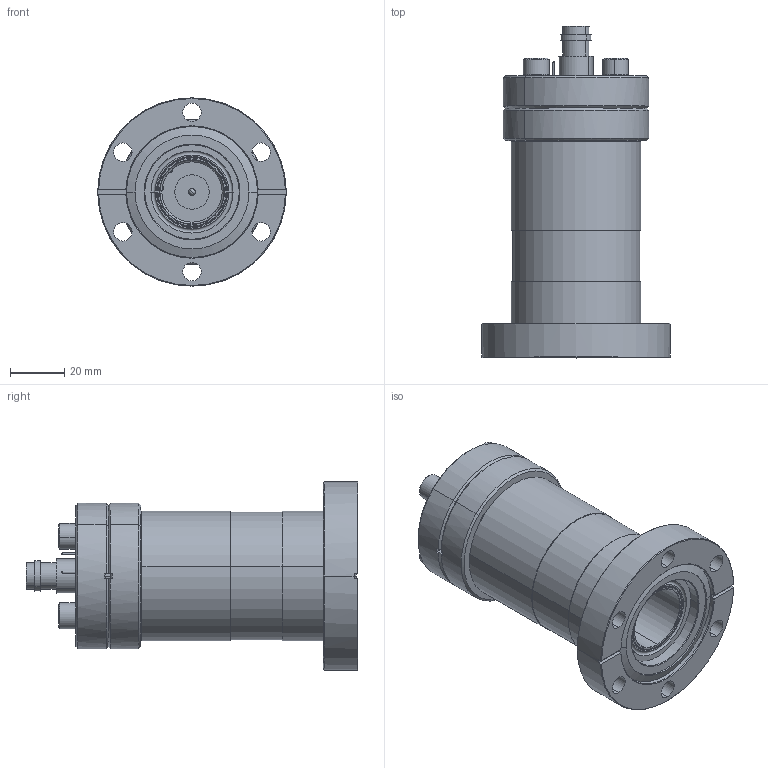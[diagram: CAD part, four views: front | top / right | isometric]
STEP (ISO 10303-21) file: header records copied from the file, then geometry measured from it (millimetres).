
FILE_DESCRIPTION (( 'STEP AP214' ), '1' );
FILE_NAME ('7FCS 2146-053.STEP', '2023-11-01T16:32:57', ( '' ), ( '' ), 'SwSTEP 2.0', 'SolidWorks 2022', '' );
FILE_SCHEMA (( 'AUTOMOTIVE_DESIGN' ));
Length unit declared in the file: inch
Products named in the file (1): 7FCS 2146-053
Bounding box: 69.34 x 122.17 x 69.34 mm (x, y, z)
Volume: 172565.9 mm3; surface area: 59163.6 mm2
Topology: 19 solids, 20 shells, 807 faces, 2087 edges, 1332 vertices
Faces by surface type: cylinder 531, cone 126, plane 118, torus 12, sphere 12, bspline 8
Full cylindrical faces by diameter (mm): 25.324 x1
Entity records: 36053 total; most frequent: CARTESIAN_POINT 18624, ORIENTED_EDGE 4124, DIRECTION 3073, EDGE_CURVE 2062, VERTEX_POINT 1320, AXIS2_PLACEMENT_3D 1191, EDGE_LOOP 886, FACE_OUTER_BOUND 808
